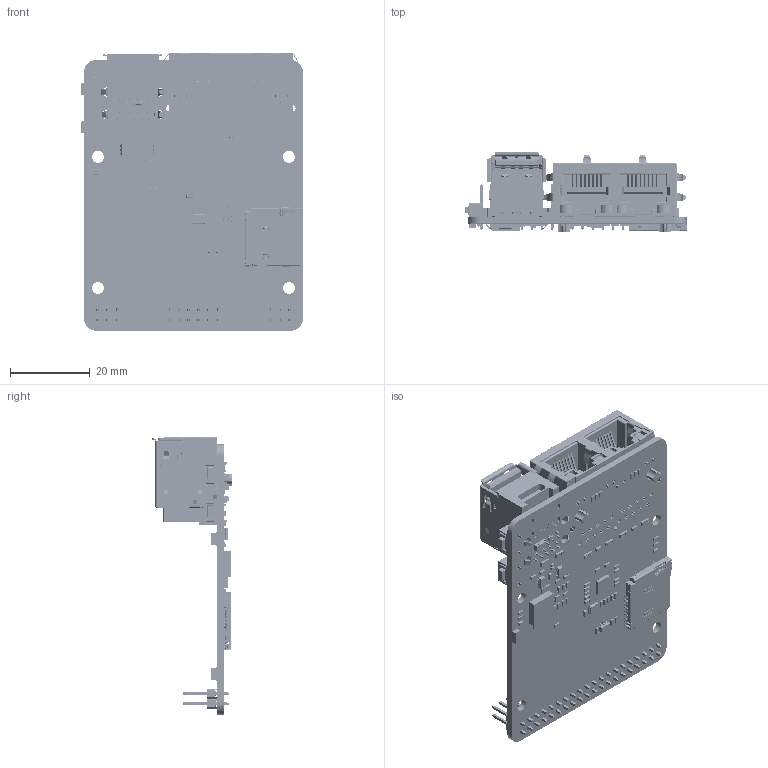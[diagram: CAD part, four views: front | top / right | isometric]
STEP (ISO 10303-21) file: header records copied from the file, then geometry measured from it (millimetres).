
FILE_DESCRIPTION((''),'2;1');
FILE_NAME('CM5-DUAL-ETH-MINI-PCBA_ASM','2025-10-25T14:49:02',('xiaojisheng'),(''),'CREO PARAMETRIC BY PTC INC, 2021063','CREO PARAMETRIC BY PTC INC, 2021063','');
FILE_SCHEMA(('CONFIG_CONTROL_DESIGN','SHAPE_APPEARANCE_LAYERS_GROUPS'));
Products named in the file (167): BOARD; CAPC1608_0603_; C44_ASM; C36_ASM; EXTRUDED-191132; 1354412032_ASM; EXTRUDED-191509; 1354421248_ASM; C14_ASM; C13_ASM; EXTRUDED-191958; 1354417792_ASM; EXTRUDED-192335; 1354415232_ASM; C12_ASM; R16_ASM; R15_ASM; R8_ASM; BODY-196149; THERMALPIN; PINSARRAYLR_1; PINSARRAYLR_2; PINSARRAYLR_3; PINSARRAYLR_4; PINSARRAYLR_5; PINSARRAYLR_6; PINSARRAYLR_7; PINSARRAYLR_8; PINSARRAYLR_9; PINSARRAYLR_10; PINSARRAYLR_11; PINSARRAYLR_12; PINSARRAYLR_13; PINSARRAYLR_14; PINSARRAYLR_15; PINSARRAYLR_16; PINSARRAYLR_ASM; PINSARRAYTB_1; PINSARRAYTB_2; PINSARRAYTB_3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
Assembly tree (249 placements, depth 8):
  CM5-DUAL-ETH-MINI-PCBA_ASM
    CM5-DUAL-ETH-MINI-PCBA-20250103_ASM
      PCB_ASM
        BOARD
        C44_ASM
          CAPC1608_0603_
        C36_ASM
          CAPC1608_0603_
        C14_ASM
          1354412032_ASM  x2
            EXTRUDED-191132
          1354421248_ASM
            EXTRUDED-191509
        C13_ASM
          1354412032_ASM  x2
            EXTRUDED-191132
          1354421248_ASM
            EXTRUDED-191509
        C12_ASM
          1354417792_ASM  x2
            EXTRUDED-191958
          1354415232_ASM
            EXTRUDED-192335
        R16_ASM
          1354415232_ASM
            EXTRUDED-192335
          1354417792_ASM  x2
            EXTRUDED-191958
        R15_ASM
          1354415232_ASM
            EXTRUDED-192335
          1354417792_ASM  x2
            EXTRUDED-191958
        R8_ASM
          1354417792_ASM  x2
            EXTRUDED-191958
          1354415232_ASM
            EXTRUDED-192335
        IC1_ASM
          1304961536_ASM
            BODY-196149
            THERMALPIN
            PINSARRAYLR_ASM
              PINSARRAYLR_1
              PINSARRAYLR_2
              PINSARRAYLR_3
              PINSARRAYLR_4
              PINSARRAYLR_5
              PINSARRAYLR_6
              PINSARRAYLR_7
              PINSARRAYLR_8
              PINSARRAYLR_9
              PINSARRAYLR_10
              PINSARRAYLR_11
              PINSARRAYLR_12
              PINSARRAYLR_13
              PINSARRAYLR_14
              PINSARRAYLR_15
              PINSARRAYLR_16
            PINSARRAYTB_ASM
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Bounding box: 55.75 x 20.15 x 69.72 mm (x, y, z)
Volume: 16639.4 mm3; surface area: 20409.4 mm2
Topology: 211 solids, 219 shells, 12246 faces, 32585 edges, 20821 vertices
Faces by surface type: plane 9047, cylinder 2045, extrusion 676, sphere 372, bspline 52, cone 32, torus 22
Entity records: 315314 total; most frequent: CARTESIAN_POINT 61444, ORIENTED_EDGE 42116, DIRECTION 37937, EDGE_CURVE 21075, VECTOR 17933, LINE 17536, PRESENTATION_STYLE_ASSIGNMENT 16463, STYLED_ITEM 15934
